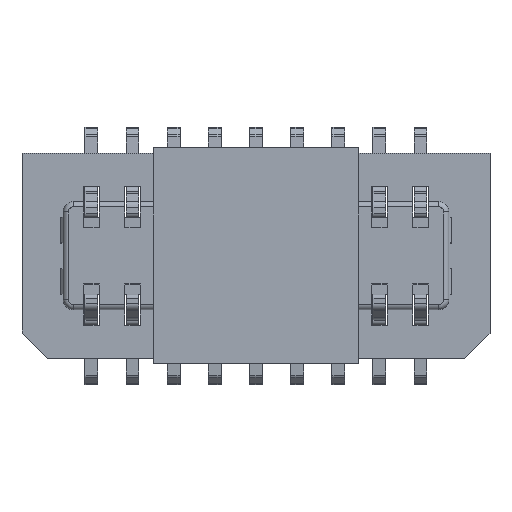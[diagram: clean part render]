
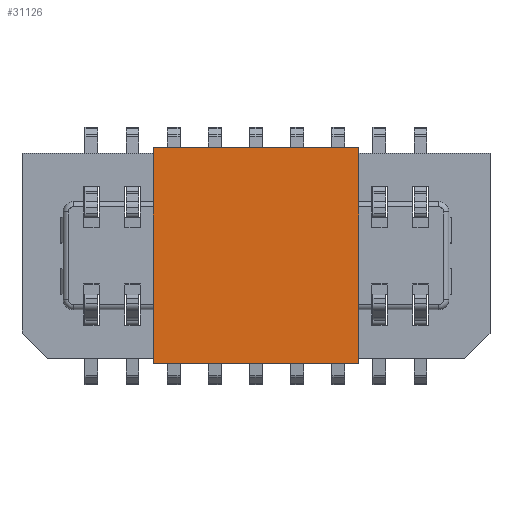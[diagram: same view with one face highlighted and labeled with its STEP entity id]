
A CAD part, top view. The second image highlights one B-rep face of the part: STEP entity #31126.
In plain terms, the highlighted planar face has unit normal (0, 0, 1).
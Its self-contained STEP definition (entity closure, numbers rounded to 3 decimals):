
#31074=CARTESIAN_POINT('Vertex',(-2.,2.1,3.45)) ;
#31077=CARTESIAN_POINT('Line Origine',(0.,2.1,3.45)) ;
#31081=CARTESIAN_POINT('Vertex',(2.,2.1,3.45)) ;
#31096=CARTESIAN_POINT('Axis2P3D Location',(0.,-2.1,3.45)) ;
#31101=CARTESIAN_POINT('Line Origine',(-2.,0.,3.45)) ;
#31105=CARTESIAN_POINT('Vertex',(-2.,-2.1,3.45)) ;
#31108=CARTESIAN_POINT('Line Origine',(0.,-2.1,3.45)) ;
#31112=CARTESIAN_POINT('Vertex',(2.,-2.1,3.45)) ;
#31115=CARTESIAN_POINT('Line Origine',(2.,0.,3.45)) ;
#31078=DIRECTION('Vector Direction',(1.,0.,0.)) ;
#31097=DIRECTION('Axis2P3D Direction',(0.,0.,-1.)) ;
#31098=DIRECTION('Axis2P3D XDirection',(0.,1.,0.)) ;
#31102=DIRECTION('Vector Direction',(0.,1.,0.)) ;
#31109=DIRECTION('Vector Direction',(1.,0.,0.)) ;
#31116=DIRECTION('Vector Direction',(0.,1.,0.)) ;
#31099=AXIS2_PLACEMENT_3D('Plane Axis2P3D',#31096,#31097,#31098) ;
#31121=ORIENTED_EDGE('',*,*,#31083,.F.) ;
#31122=ORIENTED_EDGE('',*,*,#31107,.T.) ;
#31123=ORIENTED_EDGE('',*,*,#31114,.T.) ;
#31124=ORIENTED_EDGE('',*,*,#31119,.F.) ;
#31079=VECTOR('Line Direction',#31078,1.) ;
#31103=VECTOR('Line Direction',#31102,1.) ;
#31110=VECTOR('Line Direction',#31109,1.) ;
#31117=VECTOR('Line Direction',#31116,1.) ;
#31126=ADVANCED_FACE('\X2\76D6\X0\',(#31125),#31100,.F.) ;
#31083=EDGE_CURVE('',#31075,#31082,#31080,.T.) ;
#31107=EDGE_CURVE('',#31075,#31106,#31104,.F.) ;
#31114=EDGE_CURVE('',#31106,#31113,#31111,.T.) ;
#31119=EDGE_CURVE('',#31082,#31113,#31118,.F.) ;
#31120=EDGE_LOOP('',(#31121,#31122,#31123,#31124)) ;
#31125=FACE_OUTER_BOUND('',#31120,.T.) ;
#31080=LINE('Line',#31077,#31079) ;
#31104=LINE('Line',#31101,#31103) ;
#31111=LINE('Line',#31108,#31110) ;
#31118=LINE('Line',#31115,#31117) ;
#31100=PLANE('Plane',#31099) ;
#31075=VERTEX_POINT('',#31074) ;
#31082=VERTEX_POINT('',#31081) ;
#31106=VERTEX_POINT('',#31105) ;
#31113=VERTEX_POINT('',#31112) ;
